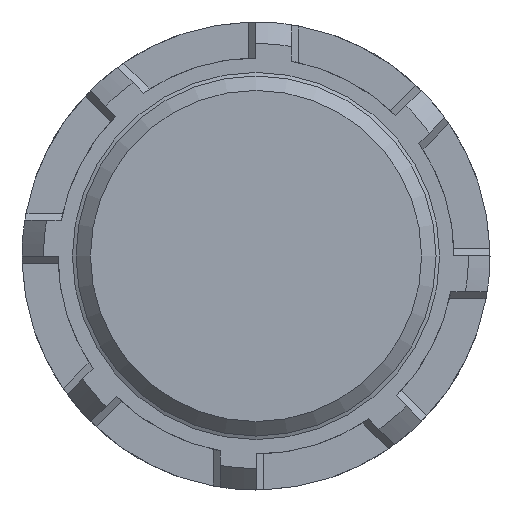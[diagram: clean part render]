
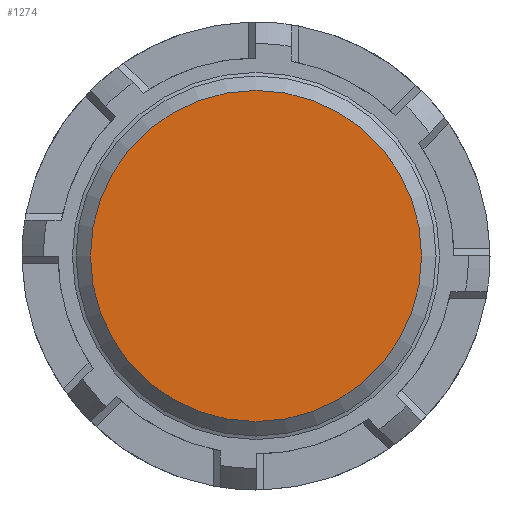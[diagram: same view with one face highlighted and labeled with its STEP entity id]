
A CAD part, front view. The second image highlights one B-rep face of the part: STEP entity #1274.
In plain terms, the highlighted planar face has unit normal (0, -1, 0).
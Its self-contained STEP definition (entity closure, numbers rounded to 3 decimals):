
#91=CIRCLE('',#1439,2.3);
#165=FACE_OUTER_BOUND('',#233,.T.);
#233=EDGE_LOOP('',(#1101));
#580=VERTEX_POINT('',#2238);
#765=EDGE_CURVE('',#580,#580,#91,.T.);
#1101=ORIENTED_EDGE('',*,*,#765,.F.);
#1213=PLANE('',#1442);
#1274=ADVANCED_FACE('',(#165),#1213,.T.);
#1439=AXIS2_PLACEMENT_3D('',#2239,#1820,#1821);
#1442=AXIS2_PLACEMENT_3D('',#2245,#1827,#1828);
#1820=DIRECTION('center_axis',(0.,1.,0.));
#1821=DIRECTION('ref_axis',(-1.,0.,0.));
#1827=DIRECTION('center_axis',(0.,-1.,0.));
#1828=DIRECTION('ref_axis',(0.,0.,-1.));
#2238=CARTESIAN_POINT('',(2.3,0.,0.));
#2239=CARTESIAN_POINT('Origin',(0.,0.,0.));
#2245=CARTESIAN_POINT('Origin',(0.,0.,0.));
